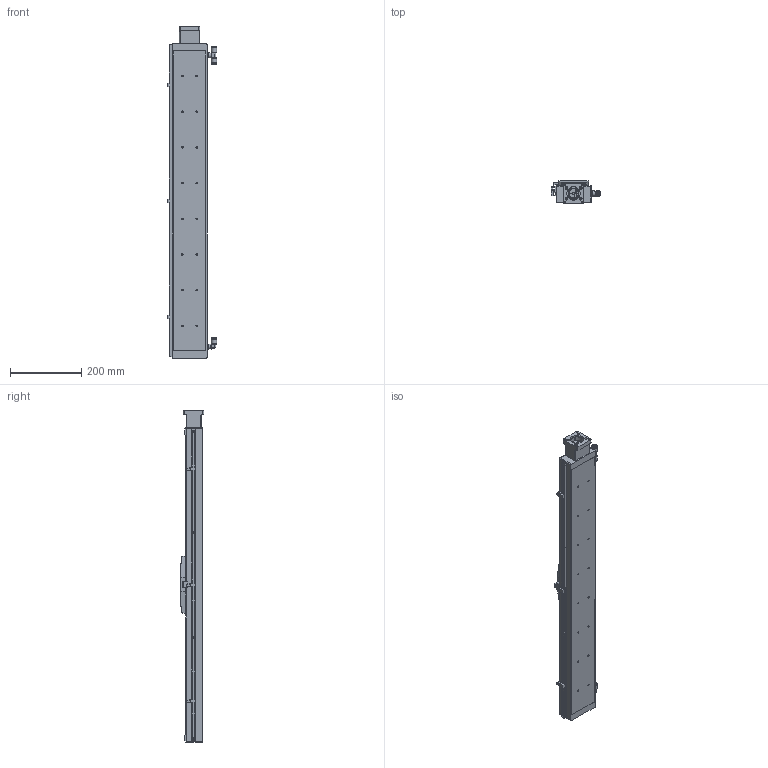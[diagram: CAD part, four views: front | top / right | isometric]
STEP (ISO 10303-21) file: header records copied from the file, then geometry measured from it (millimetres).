
FILE_DESCRIPTION((''),'2;1');
FILE_NAME('E:\libraries\UIA actuator library 2016\Clean room actuator\UIA098CR12DC\UIA098CR12 stp file 05May16\UIA098CR12DC-650-R16_ _-M23-P13-C10-S.stp','2016-05-09T15:30:50',('h029'),(''),'Autodesk Inventor 11','Autodesk Inventor 11','');
FILE_SCHEMA(('AUTOMOTIVE_DESIGN { 1 0 10303 214 1 1 1 1 }'));
Length unit declared in the file: millimetre
Products named in the file (12): UIA098CR12DC-650; body, UIA098CR12DC-650; carriage, UIA098CR12DC; Sensor Switch, UIA098CR12DC; SOH-25C; SOH-25C-2; SOH-25C-3; SOH-25C-1; Motor mount; Sensor Rail, UIA098CR12DC-650_MIR; vacuum port 1, UIA098CR12DC_MIR; vacuum port 2, UIA098CR12DC_MIR
Assembly tree (11 placements, depth 3):
  UIA098CR12DC-650
    body, UIA098CR12DC-650
    carriage, UIA098CR12DC
    Sensor Switch, UIA098CR12DC
    SOH-25C
      SOH-25C-2
      SOH-25C-3
      SOH-25C-1
    Motor mount
    Sensor Rail, UIA098CR12DC-650_MIR
    vacuum port 1, UIA098CR12DC_MIR
    vacuum port 2, UIA098CR12DC_MIR
Bounding box: 138.4 x 65.5 x 930 mm (x, y, z)
Volume: 4208448.9 mm3; surface area: 397893.8 mm2
Topology: 10 solids, 10 shells, 686 faces, 1779 edges, 1160 vertices
Faces by surface type: bspline 300, plane 295, cylinder 87, cone 4
Full cylindrical faces by diameter (mm): 3.5 x4, 5.6 x8, 8 x4, 9 x2, 10 x1, 13 x1, 15 x2, 18 x1, 25.5 x3, 37 x1, 38.1 x1
Entity records: 22249 total; most frequent: CARTESIAN_POINT 6604, ORIENTED_EDGE 3174, DIRECTION 2787, EDGE_CURVE 1587, VECTOR 1139, LINE 1139, VERTEX_POINT 1101, EDGE_LOOP 952
